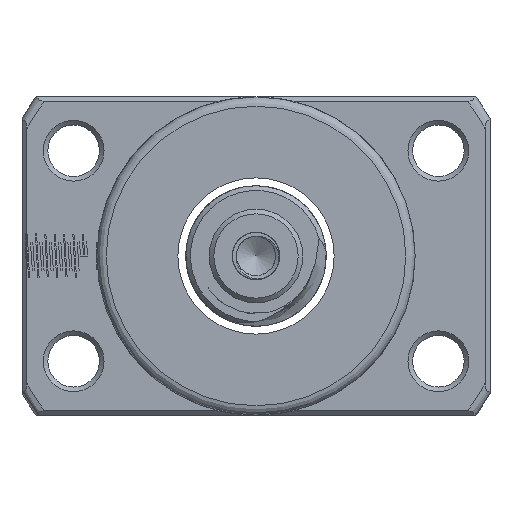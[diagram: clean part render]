
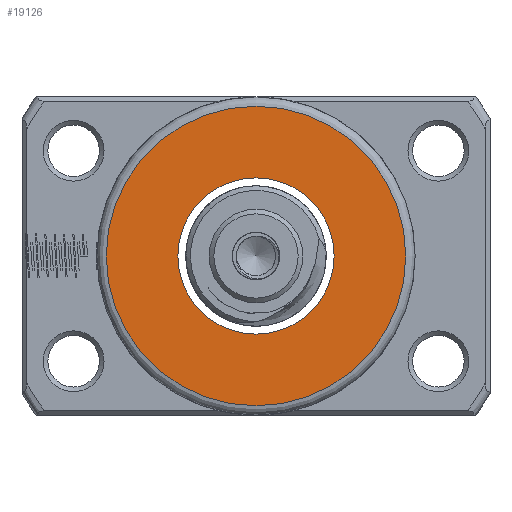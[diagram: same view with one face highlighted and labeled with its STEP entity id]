
A CAD part, left-side view. The second image highlights one B-rep face of the part: STEP entity #19126.
In plain terms, the highlighted planar face has unit normal (-1, 0, 0).
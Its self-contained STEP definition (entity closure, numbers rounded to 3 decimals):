
#924 = DIRECTION ( 'NONE',  ( -1., 0., 0. ) ) ;
#1242 = PLANE ( 'NONE',  #6658 ) ;
#3453 = DIRECTION ( 'NONE',  ( 0., 0., 1. ) ) ;
#3637 = CIRCLE ( 'NONE', #10361, 8.35 ) ;
#3746 = EDGE_LOOP ( 'NONE', ( #20284 ) ) ;
#4137 = CARTESIAN_POINT ( 'NONE',  ( -53.324, 0., 16. ) ) ;
#4901 = ORIENTED_EDGE ( 'NONE', *, *, #8020, .T. ) ;
#5508 = VERTEX_POINT ( 'NONE', #15292 ) ;
#5639 = CIRCLE ( 'NONE', #20779, 16. ) ;
#6658 = AXIS2_PLACEMENT_3D ( 'NONE', #15871, #12915, #7767 ) ;
#6745 = EDGE_CURVE ( 'NONE', #5508, #5508, #3637, .T. ) ;
#7018 = DIRECTION ( 'NONE',  ( -1., 0., 0. ) ) ;
#7767 = DIRECTION ( 'NONE',  ( 0., 0., 1. ) ) ;
#8020 = EDGE_CURVE ( 'NONE', #12244, #12244, #5639, .T. ) ;
#10361 = AXIS2_PLACEMENT_3D ( 'NONE', #13767, #924, #13561 ) ;
#11026 = FACE_BOUND ( 'NONE', #3746, .T. ) ;
#12244 = VERTEX_POINT ( 'NONE', #4137 ) ;
#12511 = FACE_OUTER_BOUND ( 'NONE', #17560, .T. ) ;
#12915 = DIRECTION ( 'NONE',  ( -1., 0., 0. ) ) ;
#13561 = DIRECTION ( 'NONE',  ( 0., 0., 1. ) ) ;
#13767 = CARTESIAN_POINT ( 'NONE',  ( -53.324, 0., 0. ) ) ;
#15292 = CARTESIAN_POINT ( 'NONE',  ( -53.324, 0., 8.35 ) ) ;
#15871 = CARTESIAN_POINT ( 'NONE',  ( -53.324, 8.35, 0. ) ) ;
#17560 = EDGE_LOOP ( 'NONE', ( #4901 ) ) ;
#18285 = CARTESIAN_POINT ( 'NONE',  ( -53.324, 0., 0. ) ) ;
#19126 = ADVANCED_FACE ( 'NONE', ( #12511, #11026 ), #1242, .T. ) ;
#20284 = ORIENTED_EDGE ( 'NONE', *, *, #6745, .F. ) ;
#20779 = AXIS2_PLACEMENT_3D ( 'NONE', #18285, #7018, #3453 ) ;
